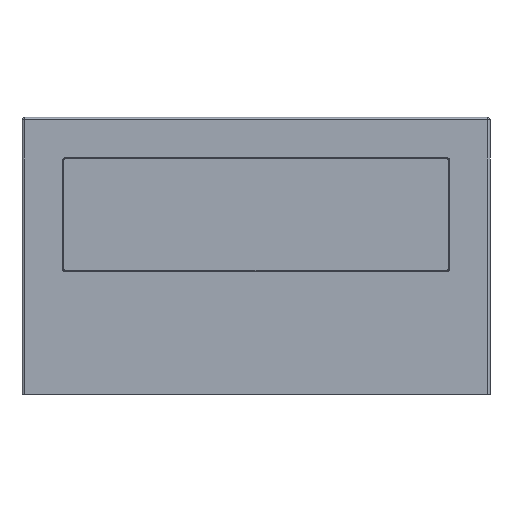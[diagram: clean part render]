
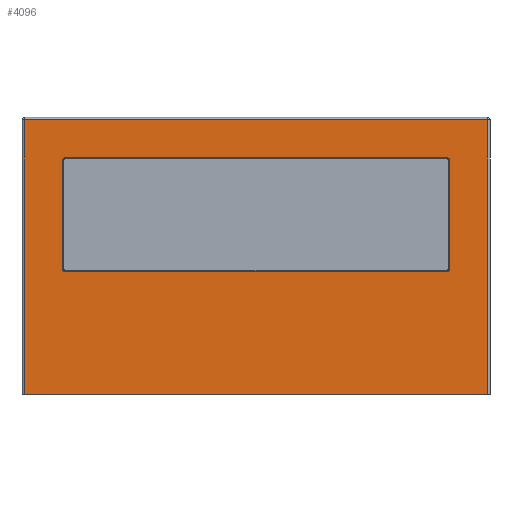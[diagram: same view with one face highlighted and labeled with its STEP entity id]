
A CAD part, front view. The second image highlights one B-rep face of the part: STEP entity #4096.
In plain terms, the highlighted planar face has unit normal (0, -1, 0).
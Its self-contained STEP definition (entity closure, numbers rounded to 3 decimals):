
#15=DIRECTION('',(-1.,0.,0.));
#16=VECTOR('',#15,188.);
#17=CARTESIAN_POINT('',(94.,-21.,0.));
#18=LINE('',#17,#16);
#269=DIRECTION('',(0.,0.,1.));
#270=VECTOR('',#269,44.);
#271=CARTESIAN_POINT('',(78.603,-21.,51.));
#272=LINE('',#271,#270);
#273=CARTESIAN_POINT('',(78.616,-21.,95.));
#274=CARTESIAN_POINT('',(78.616,-21.,95.031));
#275=CARTESIAN_POINT('',(78.614,-21.,95.092));
#276=CARTESIAN_POINT('',(78.602,-21.,95.183));
#277=CARTESIAN_POINT('',(78.583,-21.,95.274));
#278=CARTESIAN_POINT('',(78.557,-21.,95.363));
#279=CARTESIAN_POINT('',(78.524,-21.,95.449));
#280=CARTESIAN_POINT('',(78.483,-21.,95.532));
#281=CARTESIAN_POINT('',(78.436,-21.,95.611));
#282=CARTESIAN_POINT('',(78.382,-21.,95.687));
#283=CARTESIAN_POINT('',(78.322,-21.,95.757));
#284=CARTESIAN_POINT('',(78.257,-21.,95.822));
#285=CARTESIAN_POINT('',(78.186,-21.,95.882));
#286=CARTESIAN_POINT('',(78.111,-21.,95.936));
#287=CARTESIAN_POINT('',(78.032,-21.,95.983));
#288=CARTESIAN_POINT('',(77.949,-21.,96.024));
#289=CARTESIAN_POINT('',(77.863,-21.,96.057));
#290=CARTESIAN_POINT('',(77.774,-21.,96.084));
#291=CARTESIAN_POINT('',(77.684,-21.,96.103));
#292=CARTESIAN_POINT('',(77.592,-21.,96.114));
#293=CARTESIAN_POINT('',(77.531,-21.,96.117));
#294=CARTESIAN_POINT('',(77.5,-21.,96.117));
#296=DIRECTION('',(-1.,0.,0.));
#297=VECTOR('',#296,155.);
#298=CARTESIAN_POINT('',(77.5,-21.,96.117));
#299=LINE('',#298,#297);
#300=CARTESIAN_POINT('',(-77.5,-21.,96.117));
#301=CARTESIAN_POINT('',(-77.531,-21.,96.117));
#302=CARTESIAN_POINT('',(-77.592,-21.,96.114));
#303=CARTESIAN_POINT('',(-77.684,-21.,96.103));
#304=CARTESIAN_POINT('',(-77.774,-21.,96.084));
#305=CARTESIAN_POINT('',(-77.863,-21.,96.057));
#306=CARTESIAN_POINT('',(-77.949,-21.,96.024));
#307=CARTESIAN_POINT('',(-78.032,-21.,95.983));
#308=CARTESIAN_POINT('',(-78.111,-21.,95.936));
#309=CARTESIAN_POINT('',(-78.186,-21.,95.882));
#310=CARTESIAN_POINT('',(-78.257,-21.,95.822));
#311=CARTESIAN_POINT('',(-78.322,-21.,95.757));
#312=CARTESIAN_POINT('',(-78.382,-21.,95.687));
#313=CARTESIAN_POINT('',(-78.436,-21.,95.611));
#314=CARTESIAN_POINT('',(-78.483,-21.,95.532));
#315=CARTESIAN_POINT('',(-78.524,-21.,95.449));
#316=CARTESIAN_POINT('',(-78.557,-21.,95.363));
#317=CARTESIAN_POINT('',(-78.583,-21.,95.274));
#318=CARTESIAN_POINT('',(-78.602,-21.,95.183));
#319=CARTESIAN_POINT('',(-78.614,-21.,95.092));
#320=CARTESIAN_POINT('',(-78.616,-21.,95.031));
#321=CARTESIAN_POINT('',(-78.616,-21.,95.));
#323=DIRECTION('',(0.,0.,-1.));
#324=VECTOR('',#323,44.);
#325=CARTESIAN_POINT('',(-78.616,-21.,95.));
#326=LINE('',#325,#324);
#327=CARTESIAN_POINT('',(-78.603,-21.,51.));
#328=CARTESIAN_POINT('',(-78.603,-21.,50.97));
#329=CARTESIAN_POINT('',(-78.6,-21.,50.909));
#330=CARTESIAN_POINT('',(-78.589,-21.,50.819));
#331=CARTESIAN_POINT('',(-78.57,-21.,50.729));
#332=CARTESIAN_POINT('',(-78.544,-21.,50.642));
#333=CARTESIAN_POINT('',(-78.511,-21.,50.557));
#334=CARTESIAN_POINT('',(-78.471,-21.,50.475));
#335=CARTESIAN_POINT('',(-78.424,-21.,50.397));
#336=CARTESIAN_POINT('',(-78.371,-21.,50.322));
#337=CARTESIAN_POINT('',(-78.312,-21.,50.252));
#338=CARTESIAN_POINT('',(-78.248,-21.,50.188));
#339=CARTESIAN_POINT('',(-78.178,-21.,50.129));
#340=CARTESIAN_POINT('',(-78.103,-21.,50.076));
#341=CARTESIAN_POINT('',(-78.025,-21.,50.029));
#342=CARTESIAN_POINT('',(-77.943,-21.,49.989));
#343=CARTESIAN_POINT('',(-77.858,-21.,49.956));
#344=CARTESIAN_POINT('',(-77.771,-21.,49.93));
#345=CARTESIAN_POINT('',(-77.681,-21.,49.911));
#346=CARTESIAN_POINT('',(-77.591,-21.,49.9));
#347=CARTESIAN_POINT('',(-77.53,-21.,49.897));
#348=CARTESIAN_POINT('',(-77.5,-21.,49.897));
#350=DIRECTION('',(1.,0.,0.));
#351=VECTOR('',#350,155.);
#352=CARTESIAN_POINT('',(-77.5,-21.,49.897));
#353=LINE('',#352,#351);
#354=CARTESIAN_POINT('',(77.5,-21.,49.897));
#355=CARTESIAN_POINT('',(77.53,-21.,49.897));
#356=CARTESIAN_POINT('',(77.591,-21.,49.9));
#357=CARTESIAN_POINT('',(77.681,-21.,49.911));
#358=CARTESIAN_POINT('',(77.771,-21.,49.93));
#359=CARTESIAN_POINT('',(77.858,-21.,49.956));
#360=CARTESIAN_POINT('',(77.943,-21.,49.989));
#361=CARTESIAN_POINT('',(78.025,-21.,50.029));
#362=CARTESIAN_POINT('',(78.103,-21.,50.076));
#363=CARTESIAN_POINT('',(78.178,-21.,50.129));
#364=CARTESIAN_POINT('',(78.248,-21.,50.188));
#365=CARTESIAN_POINT('',(78.312,-21.,50.252));
#366=CARTESIAN_POINT('',(78.371,-21.,50.322));
#367=CARTESIAN_POINT('',(78.424,-21.,50.397));
#368=CARTESIAN_POINT('',(78.471,-21.,50.475));
#369=CARTESIAN_POINT('',(78.511,-21.,50.557));
#370=CARTESIAN_POINT('',(78.544,-21.,50.642));
#371=CARTESIAN_POINT('',(78.57,-21.,50.729));
#372=CARTESIAN_POINT('',(78.589,-21.,50.819));
#373=CARTESIAN_POINT('',(78.6,-21.,50.909));
#374=CARTESIAN_POINT('',(78.603,-21.,50.97));
#375=CARTESIAN_POINT('',(78.603,-21.,51.));
#377=DIRECTION('',(0.,0.,-1.));
#378=VECTOR('',#377,111.5);
#379=CARTESIAN_POINT('',(-94.,-21.,111.5));
#380=LINE('',#379,#378);
#381=DIRECTION('',(-1.,0.,0.));
#382=VECTOR('',#381,188.);
#383=CARTESIAN_POINT('',(94.,-21.,111.5));
#384=LINE('',#383,#382);
#385=DIRECTION('',(0.,0.,1.));
#386=VECTOR('',#385,111.5);
#387=CARTESIAN_POINT('',(94.,-21.,0.));
#388=LINE('',#387,#386);
#3628=CARTESIAN_POINT('',(-94.,-21.,0.));
#3630=VERTEX_POINT('',#3628);
#3634=CARTESIAN_POINT('',(-94.,-21.,111.5));
#3635=VERTEX_POINT('',#3634);
#3638=CARTESIAN_POINT('',(94.,-21.,111.5));
#3639=VERTEX_POINT('',#3638);
#3645=CARTESIAN_POINT('',(94.,-21.,0.));
#3647=VERTEX_POINT('',#3645);
#3709=VERTEX_POINT('',#273);
#3710=VERTEX_POINT('',#294);
#3711=CARTESIAN_POINT('',(-77.5,-21.,96.117));
#3712=VERTEX_POINT('',#3711);
#3713=VERTEX_POINT('',#321);
#3714=CARTESIAN_POINT('',(-78.603,-21.,51.));
#3715=VERTEX_POINT('',#3714);
#3716=VERTEX_POINT('',#348);
#3717=CARTESIAN_POINT('',(77.5,-21.,49.897));
#3718=VERTEX_POINT('',#3717);
#3719=VERTEX_POINT('',#375);
#4064=CARTESIAN_POINT('',(95.,-21.,0.));
#4065=DIRECTION('',(0.,-1.,0.));
#4066=DIRECTION('',(-1.,0.,0.));
#4067=AXIS2_PLACEMENT_3D('',#4064,#4065,#4066);
#4068=PLANE('',#4067);
#4070=ORIENTED_EDGE('',*,*,#4069,.F.);
#4072=ORIENTED_EDGE('',*,*,#4071,.F.);
#4074=ORIENTED_EDGE('',*,*,#4073,.F.);
#4075=ORIENTED_EDGE('',*,*,#3980,.T.);
#4076=EDGE_LOOP('',(#4070,#4072,#4074,#4075));
#4077=FACE_OUTER_BOUND('',#4076,.F.);
#4079=ORIENTED_EDGE('',*,*,#4078,.T.);
#4081=ORIENTED_EDGE('',*,*,#4080,.T.);
#4083=ORIENTED_EDGE('',*,*,#4082,.T.);
#4085=ORIENTED_EDGE('',*,*,#4084,.T.);
#4087=ORIENTED_EDGE('',*,*,#4086,.T.);
#4089=ORIENTED_EDGE('',*,*,#4088,.T.);
#4091=ORIENTED_EDGE('',*,*,#4090,.T.);
#4093=ORIENTED_EDGE('',*,*,#4092,.T.);
#4094=EDGE_LOOP('',(#4079,#4081,#4083,#4085,#4087,#4089,#4091,#4093));
#4095=FACE_BOUND('',#4094,.F.);
#4096=ADVANCED_FACE('',(#4077,#4095),#4068,.T.);
#295=B_SPLINE_CURVE_WITH_KNOTS('',3,(#273,#274,#275,#276,#277,#278,#279,#280,
#281,#282,#283,#284,#285,#286,#287,#288,#289,#290,#291,#292,#293,#294),
.UNSPECIFIED.,.F.,.F.,(4,1,1,1,1,1,1,1,1,1,1,1,1,1,1,1,1,1,1,4),(0.,
0.053,0.105,0.158,0.211,
0.263,0.316,0.368,0.421,
0.474,0.526,0.579,0.632,
0.684,0.737,0.789,0.842,
0.895,0.947,1.),.UNSPECIFIED.);
#322=B_SPLINE_CURVE_WITH_KNOTS('',3,(#300,#301,#302,#303,#304,#305,#306,#307,
#308,#309,#310,#311,#312,#313,#314,#315,#316,#317,#318,#319,#320,#321),
.UNSPECIFIED.,.F.,.F.,(4,1,1,1,1,1,1,1,1,1,1,1,1,1,1,1,1,1,1,4),(0.,
0.053,0.105,0.158,0.211,
0.263,0.316,0.368,0.421,
0.474,0.526,0.579,0.632,
0.684,0.737,0.789,0.842,
0.895,0.947,1.),.UNSPECIFIED.);
#349=B_SPLINE_CURVE_WITH_KNOTS('',3,(#327,#328,#329,#330,#331,#332,#333,#334,
#335,#336,#337,#338,#339,#340,#341,#342,#343,#344,#345,#346,#347,#348),
.UNSPECIFIED.,.F.,.F.,(4,1,1,1,1,1,1,1,1,1,1,1,1,1,1,1,1,1,1,4),(0.,
0.053,0.105,0.158,0.211,
0.263,0.316,0.368,0.421,
0.474,0.526,0.579,0.632,
0.684,0.737,0.789,0.842,
0.895,0.947,1.),.UNSPECIFIED.);
#376=B_SPLINE_CURVE_WITH_KNOTS('',3,(#354,#355,#356,#357,#358,#359,#360,#361,
#362,#363,#364,#365,#366,#367,#368,#369,#370,#371,#372,#373,#374,#375),
.UNSPECIFIED.,.F.,.F.,(4,1,1,1,1,1,1,1,1,1,1,1,1,1,1,1,1,1,1,4),(0.,
0.053,0.105,0.158,0.211,
0.263,0.316,0.368,0.421,
0.474,0.526,0.579,0.632,
0.684,0.737,0.789,0.842,
0.895,0.947,1.),.UNSPECIFIED.);
#3980=EDGE_CURVE('',#3647,#3630,#18,.T.);
#4069=EDGE_CURVE('',#3635,#3630,#380,.T.);
#4071=EDGE_CURVE('',#3639,#3635,#384,.T.);
#4073=EDGE_CURVE('',#3647,#3639,#388,.T.);
#4078=EDGE_CURVE('',#3719,#3709,#272,.T.);
#4080=EDGE_CURVE('',#3709,#3710,#295,.T.);
#4082=EDGE_CURVE('',#3710,#3712,#299,.T.);
#4084=EDGE_CURVE('',#3712,#3713,#322,.T.);
#4086=EDGE_CURVE('',#3713,#3715,#326,.T.);
#4088=EDGE_CURVE('',#3715,#3716,#349,.T.);
#4090=EDGE_CURVE('',#3716,#3718,#353,.T.);
#4092=EDGE_CURVE('',#3718,#3719,#376,.T.);
